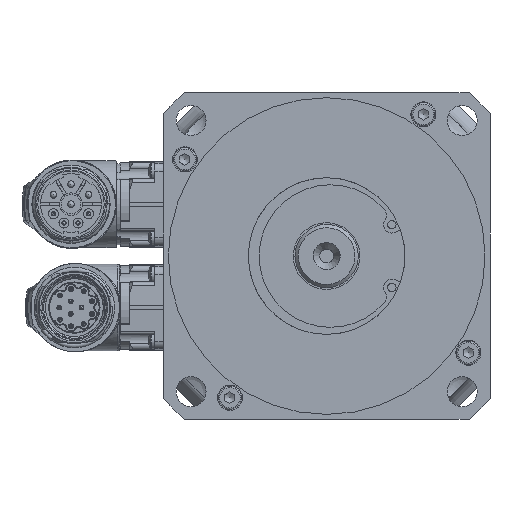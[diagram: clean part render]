
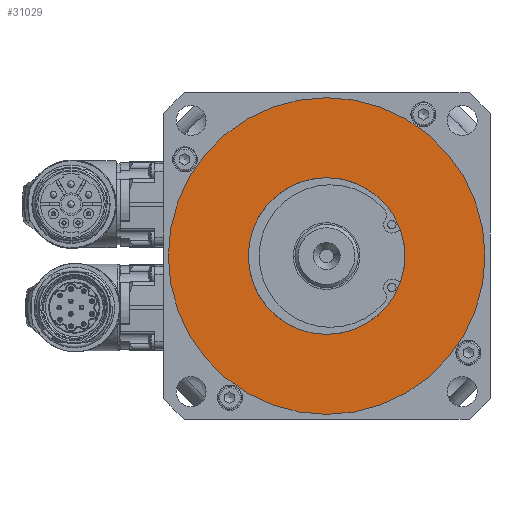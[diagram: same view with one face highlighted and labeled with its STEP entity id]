
A CAD part, left-side view. The second image highlights one B-rep face of the part: STEP entity #31029.
In plain terms, the highlighted planar face has unit normal (-1, 0, 0).
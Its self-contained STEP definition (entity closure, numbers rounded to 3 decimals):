
#1372=FACE_BOUND('',#4064,.T.);
#1701=PLANE('',#33209);
#2247=FACE_OUTER_BOUND('',#4063,.T.);
#4063=EDGE_LOOP('',(#19639,#19640));
#4064=EDGE_LOOP('',(#19641));
#6199=CIRCLE('',#33135,23.5);
#6245=CIRCLE('',#33207,47.5);
#6246=CIRCLE('',#33208,47.5);
#11528=VERTEX_POINT('',#46542);
#11581=VERTEX_POINT('',#46695);
#11582=VERTEX_POINT('',#46697);
#14593=EDGE_CURVE('',#11528,#11528,#6199,.T.);
#14667=EDGE_CURVE('',#11582,#11581,#6245,.T.);
#14668=EDGE_CURVE('',#11581,#11582,#6246,.T.);
#19639=ORIENTED_EDGE('',*,*,#14667,.T.);
#19640=ORIENTED_EDGE('',*,*,#14668,.T.);
#19641=ORIENTED_EDGE('',*,*,#14593,.F.);
#31029=ADVANCED_FACE('',(#2247,#1372),#1701,.F.);
#33135=AXIS2_PLACEMENT_3D('',#46544,#37282,#37283);
#33207=AXIS2_PLACEMENT_3D('',#46698,#37454,#37455);
#33208=AXIS2_PLACEMENT_3D('',#46699,#37456,#37457);
#33209=AXIS2_PLACEMENT_3D('',#46700,#37458,#37459);
#37282=DIRECTION('center_axis',(-1.,0.,0.));
#37283=DIRECTION('ref_axis',(0.,1.,0.));
#37454=DIRECTION('center_axis',(-1.,0.,0.));
#37455=DIRECTION('ref_axis',(0.,0.,1.));
#37456=DIRECTION('center_axis',(-1.,0.,0.));
#37457=DIRECTION('ref_axis',(0.,0.,1.));
#37458=DIRECTION('center_axis',(1.,0.,0.));
#37459=DIRECTION('ref_axis',(0.,0.,-1.));
#46542=CARTESIAN_POINT('',(-37.394,-23.5,0.));
#46544=CARTESIAN_POINT('Origin',(-37.394,0.,
0.));
#46695=CARTESIAN_POINT('',(-37.394,-47.5,0.));
#46697=CARTESIAN_POINT('',(-37.394,47.5,0.));
#46698=CARTESIAN_POINT('Origin',(-37.394,0.,
0.));
#46699=CARTESIAN_POINT('Origin',(-37.394,0.,
0.));
#46700=CARTESIAN_POINT('Origin',(-37.394,47.5,0.));
